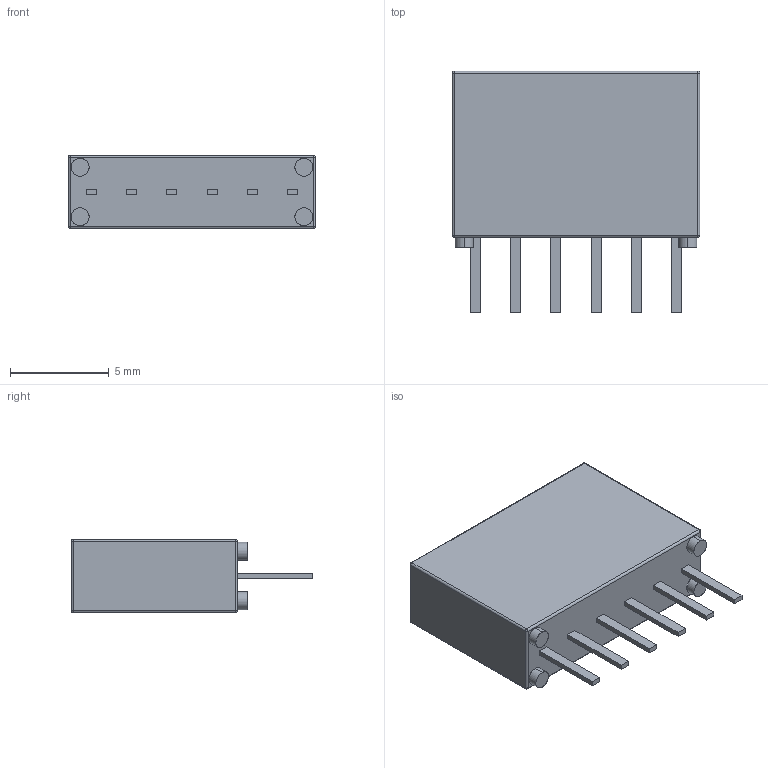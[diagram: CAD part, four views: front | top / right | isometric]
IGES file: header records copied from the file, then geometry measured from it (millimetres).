
Start section: SolidWorks IGES file using analytic representation for surfaces
Global section: file name: T:\Relays in Solidworks\Batch 1\113-2-A.IGS; native system: SolidWorks 2009; preprocessor: SolidWorks 2009; author: alex.leming; date: 100629.120544; units: millimetre
Bounding box: 12.5 x 12.2 x 3.7 mm (x, y, z)
Surface area: 400.7 mm2 (no closed solid volume)
Topology: 0 solids, 0 shells, 294 faces, 2218 edges, 2210 vertices
Faces by surface type: bspline 264, revolution 30
